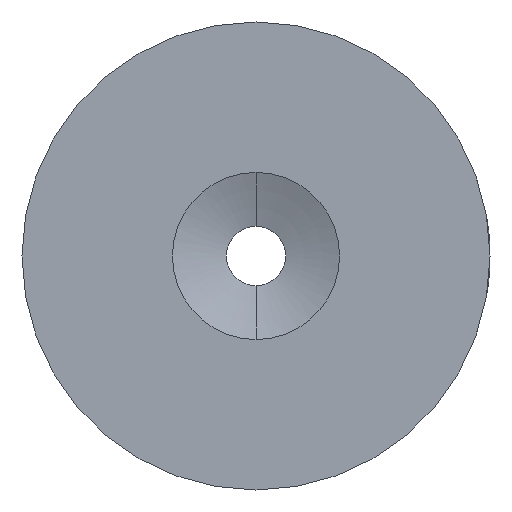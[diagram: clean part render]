
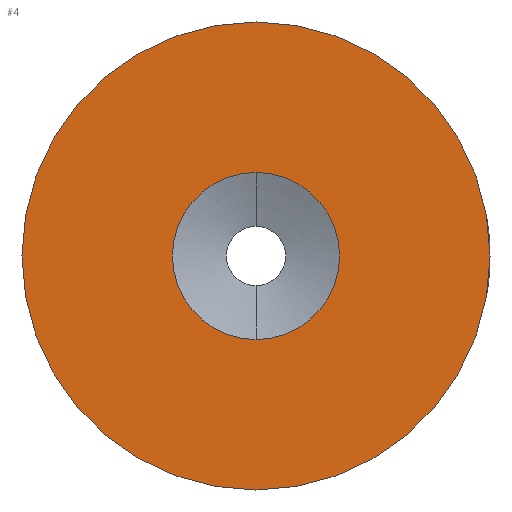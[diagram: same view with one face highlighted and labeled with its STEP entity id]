
A CAD part, left-side view. The second image highlights one B-rep face of the part: STEP entity #4.
In plain terms, the highlighted planar face has unit normal (-1, 0, 0).
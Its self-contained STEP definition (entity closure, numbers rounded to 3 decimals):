
#2 = CIRCLE ( 'NONE', #141, 14. ) ;
#4 = ADVANCED_FACE ( 'NONE', ( #96, #492 ), #235, .F. ) ;
#37 = DIRECTION ( 'NONE',  ( -1., 0., 0. ) ) ;
#58 = DIRECTION ( 'NONE',  ( 1., 0., 0. ) ) ;
#96 = FACE_BOUND ( 'NONE', #207, .T. ) ;
#100 = CIRCLE ( 'NONE', #289, 5. ) ;
#103 = AXIS2_PLACEMENT_3D ( 'NONE', #271, #221, #156 ) ;
#127 = EDGE_CURVE ( 'NONE', #137, #508, #100, .T. ) ;
#137 = VERTEX_POINT ( 'NONE', #206 ) ;
#141 = AXIS2_PLACEMENT_3D ( 'NONE', #247, #250, #252 ) ;
#156 = DIRECTION ( 'NONE',  ( 0., 0., 1. ) ) ;
#168 = CARTESIAN_POINT ( 'NONE',  ( 0., 1.75, 0. ) ) ;
#190 = CARTESIAN_POINT ( 'NONE',  ( 0., 0., 0. ) ) ;
#199 = VERTEX_POINT ( 'NONE', #442 ) ;
#206 = CARTESIAN_POINT ( 'NONE',  ( 0., 0., 5. ) ) ;
#207 = EDGE_LOOP ( 'NONE', ( #532, #401 ) ) ;
#221 = DIRECTION ( 'NONE',  ( -1., 0., 0. ) ) ;
#226 = EDGE_CURVE ( 'NONE', #199, #330, #2, .T. ) ;
#235 = PLANE ( 'NONE',  #515 ) ;
#247 = CARTESIAN_POINT ( 'NONE',  ( 0., 0., 0. ) ) ;
#250 = DIRECTION ( 'NONE',  ( -1., 0., 0. ) ) ;
#252 = DIRECTION ( 'NONE',  ( 0., 0., 1. ) ) ;
#255 = DIRECTION ( 'NONE',  ( 0., 0., 1. ) ) ;
#268 = EDGE_CURVE ( 'NONE', #330, #199, #394, .T. ) ;
#270 = ORIENTED_EDGE ( 'NONE', *, *, #268, .T. ) ;
#271 = CARTESIAN_POINT ( 'NONE',  ( 0., 0., 0. ) ) ;
#279 = DIRECTION ( 'NONE',  ( -1., 0., 0. ) ) ;
#286 = AXIS2_PLACEMENT_3D ( 'NONE', #190, #37, #485 ) ;
#287 = ORIENTED_EDGE ( 'NONE', *, *, #226, .T. ) ;
#289 = AXIS2_PLACEMENT_3D ( 'NONE', #337, #279, #255 ) ;
#330 = VERTEX_POINT ( 'NONE', #494 ) ;
#337 = CARTESIAN_POINT ( 'NONE',  ( 0., 0., 0. ) ) ;
#344 = CIRCLE ( 'NONE', #103, 5. ) ;
#394 = CIRCLE ( 'NONE', #286, 14. ) ;
#401 = ORIENTED_EDGE ( 'NONE', *, *, #462, .F. ) ;
#442 = CARTESIAN_POINT ( 'NONE',  ( 0., 0., -14. ) ) ;
#462 = EDGE_CURVE ( 'NONE', #508, #137, #344, .T. ) ;
#480 = EDGE_LOOP ( 'NONE', ( #270, #287 ) ) ;
#485 = DIRECTION ( 'NONE',  ( 0., 0., 1. ) ) ;
#492 = FACE_OUTER_BOUND ( 'NONE', #480, .T. ) ;
#494 = CARTESIAN_POINT ( 'NONE',  ( 0., 0., 14. ) ) ;
#495 = DIRECTION ( 'NONE',  ( 0., 0., -1. ) ) ;
#508 = VERTEX_POINT ( 'NONE', #510 ) ;
#510 = CARTESIAN_POINT ( 'NONE',  ( 0., 0., -5. ) ) ;
#515 = AXIS2_PLACEMENT_3D ( 'NONE', #168, #58, #495 ) ;
#532 = ORIENTED_EDGE ( 'NONE', *, *, #127, .F. ) ;
